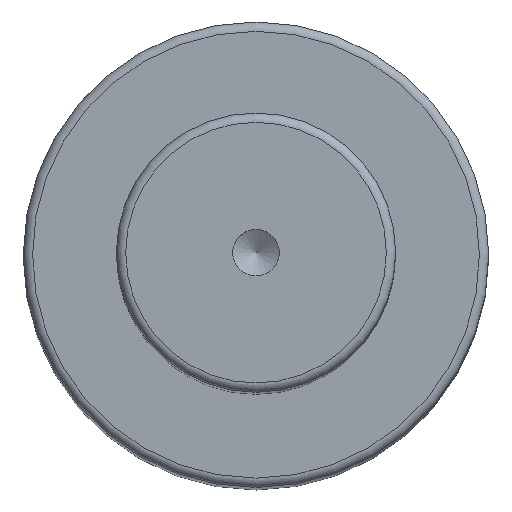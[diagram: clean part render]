
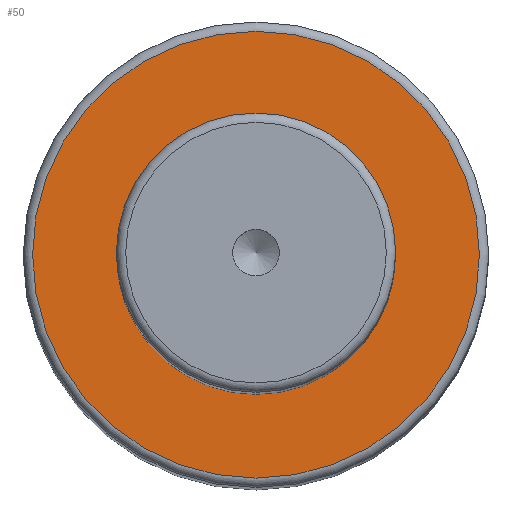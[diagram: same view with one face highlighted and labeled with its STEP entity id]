
A CAD part, top view. The second image highlights one B-rep face of the part: STEP entity #50.
In plain terms, the highlighted planar face has unit normal (0, 0, 1).
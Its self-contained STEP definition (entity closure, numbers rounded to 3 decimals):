
#40=PLANE('',#179);
#50=ADVANCED_FACE('',(#72,#73),#40,.F.);
#72=FACE_BOUND('',#96,.T.);
#73=FACE_BOUND('',#97,.T.);
#96=EDGE_LOOP('',(#118));
#97=EDGE_LOOP('',(#119));
#118=ORIENTED_EDGE('',*,*,#149,.F.);
#119=ORIENTED_EDGE('',*,*,#148,.T.);
#135=VERTEX_POINT('',#256);
#136=VERTEX_POINT('',#259);
#148=EDGE_CURVE('',#135,#135,#159,.T.);
#149=EDGE_CURVE('',#136,#136,#160,.T.);
#159=CIRCLE('',#176,15.);
#160=CIRCLE('',#178,24.);
#176=AXIS2_PLACEMENT_3D('',#255,#213,#214);
#178=AXIS2_PLACEMENT_3D('',#258,#217,#218);
#179=AXIS2_PLACEMENT_3D('',#260,#219,#220);
#213=DIRECTION('',(0.,0.,-1.));
#214=DIRECTION('',(-1.,0.,0.));
#217=DIRECTION('',(0.,0.,-1.));
#218=DIRECTION('',(-1.,0.,0.));
#219=DIRECTION('',(0.,0.,-1.));
#220=DIRECTION('',(-1.,0.,0.));
#255=CARTESIAN_POINT('',(0.,0.,159.));
#256=CARTESIAN_POINT('',(-15.,0.,159.));
#258=CARTESIAN_POINT('',(0.,0.,159.));
#259=CARTESIAN_POINT('',(-24.,0.,159.));
#260=CARTESIAN_POINT('',(15.,0.,159.));
